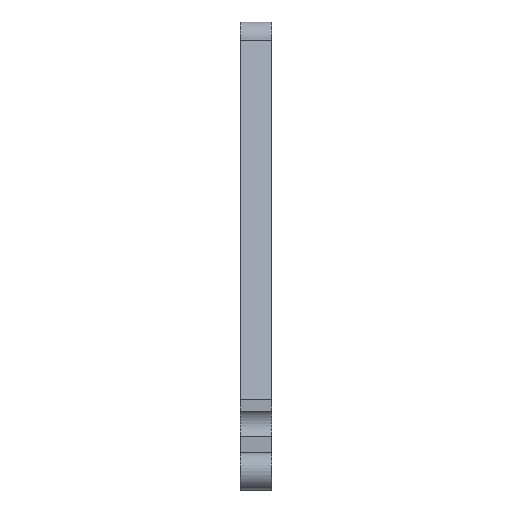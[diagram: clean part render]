
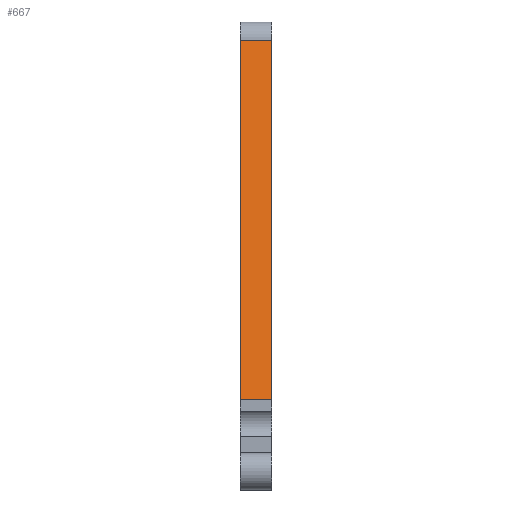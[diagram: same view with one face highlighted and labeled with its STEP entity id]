
A CAD part, left-side view. The second image highlights one B-rep face of the part: STEP entity #667.
In plain terms, the highlighted planar face has unit normal (-0.982, 0, 0.188).
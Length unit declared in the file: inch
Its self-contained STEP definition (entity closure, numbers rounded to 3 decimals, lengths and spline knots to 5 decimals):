
#3 = VECTOR ( 'NONE', #1012, 39.37008 ) ;
#11 = CARTESIAN_POINT ( 'NONE',  ( -0.683, 0.25, -1.125 ) ) ;
#18 = EDGE_CURVE ( 'NONE', #351, #1024, #792, .T. ) ;
#38 = LINE ( 'NONE', #138, #948 ) ;
#49 = CARTESIAN_POINT ( 'NONE',  ( -0.145, 0.25, 1.6875 ) ) ;
#122 = LINE ( 'NONE', #11, #3 ) ;
#138 = CARTESIAN_POINT ( 'NONE',  ( -0.683, 0.25, -1.125 ) ) ;
#143 = VECTOR ( 'NONE', #868, 39.37008 ) ;
#175 = EDGE_LOOP ( 'NONE', ( #777, #693, #610, #556 ) ) ;
#178 = CARTESIAN_POINT ( 'NONE',  ( -0.145, 0., 1.6875 ) ) ;
#214 = EDGE_CURVE ( 'NONE', #863, #691, #122, .T. ) ;
#264 = CARTESIAN_POINT ( 'NONE',  ( -0.145, 0.25, 1.6875 ) ) ;
#270 = EDGE_CURVE ( 'NONE', #863, #351, #323, .T. ) ;
#317 = EDGE_CURVE ( 'NONE', #691, #1024, #38, .T. ) ;
#323 = LINE ( 'NONE', #49, #143 ) ;
#351 = VERTEX_POINT ( 'NONE', #178 ) ;
#427 = AXIS2_PLACEMENT_3D ( 'NONE', #733, #1099, #987 ) ;
#461 = CARTESIAN_POINT ( 'NONE',  ( -0.683, 0.25, -1.125 ) ) ;
#556 = ORIENTED_EDGE ( 'NONE', *, *, #18, .F. ) ;
#610 = ORIENTED_EDGE ( 'NONE', *, *, #317, .T. ) ;
#667 = ADVANCED_FACE ( 'NONE', ( #816 ), #1086, .T. ) ;
#675 = DIRECTION ( 'NONE',  ( -0.188, 0., -0.982 ) ) ;
#691 = VERTEX_POINT ( 'NONE', #461 ) ;
#693 = ORIENTED_EDGE ( 'NONE', *, *, #214, .T. ) ;
#720 = VECTOR ( 'NONE', #675, 39.37008 ) ;
#733 = CARTESIAN_POINT ( 'NONE',  ( -0.683, 3.11349, -1.125 ) ) ;
#777 = ORIENTED_EDGE ( 'NONE', *, *, #270, .F. ) ;
#792 = LINE ( 'NONE', #1122, #720 ) ;
#816 = FACE_OUTER_BOUND ( 'NONE', #175, .T. ) ;
#818 = CARTESIAN_POINT ( 'NONE',  ( -0.683, 0., -1.125 ) ) ;
#863 = VERTEX_POINT ( 'NONE', #264 ) ;
#868 = DIRECTION ( 'NONE',  ( 0., -1., 0. ) ) ;
#948 = VECTOR ( 'NONE', #1118, 39.37008 ) ;
#987 = DIRECTION ( 'NONE',  ( 0.188, 0., 0.982 ) ) ;
#1012 = DIRECTION ( 'NONE',  ( -0.188, 0., -0.982 ) ) ;
#1024 = VERTEX_POINT ( 'NONE', #818 ) ;
#1086 = PLANE ( 'NONE',  #427 ) ;
#1099 = DIRECTION ( 'NONE',  ( -0.982, 0., 0.188 ) ) ;
#1118 = DIRECTION ( 'NONE',  ( 0., -1., 0. ) ) ;
#1122 = CARTESIAN_POINT ( 'NONE',  ( -0.683, 0., -1.125 ) ) ;
